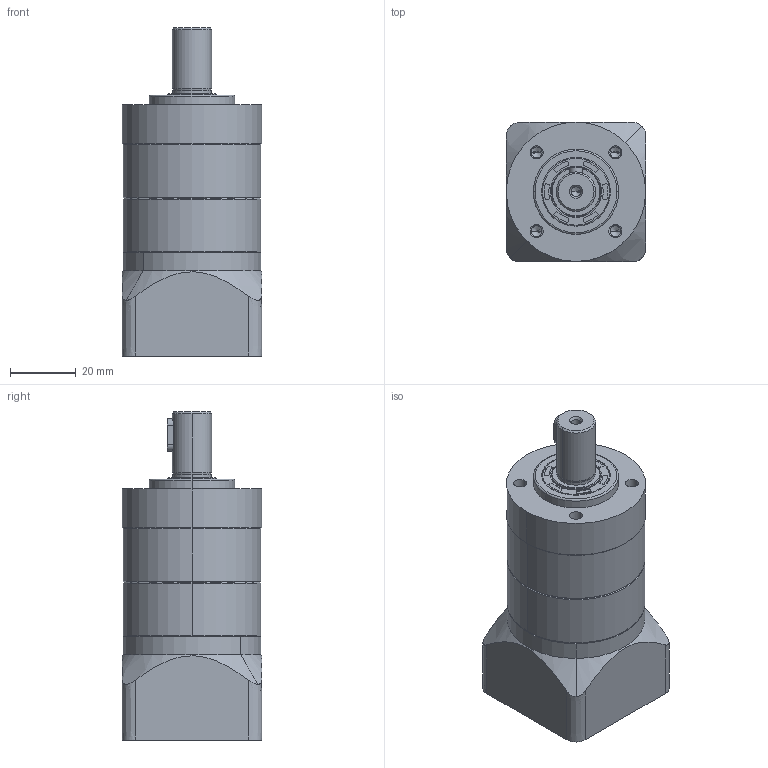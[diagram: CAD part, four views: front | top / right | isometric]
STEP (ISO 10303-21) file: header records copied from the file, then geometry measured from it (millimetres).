
FILE_DESCRIPTION (( 'STEP AP203' ), '1' );
FILE_NAME ('NB42-L2(8-30-45-M3).STEP', '2022-03-12T16:16:15', ( '' ), ( '' ), 'SwSTEP 2.0', 'SolidWorks 2016', '' );
FILE_SCHEMA (( 'CONFIG_CONTROL_DESIGN' ));
Length unit declared in the file: millimetre
Products named in the file (8): NB42-(26x3-34-M4); SN42-(30-45-M3); SN42-(12x20-4x10); NB42-15x21x3; NB42-L2(8-30-45-M3); SN42-26x14x11-M4; SN42-(8); SN42
Assembly tree (8 placements, depth 2):
  NB42-L2(8-30-45-M3)
    NB42-(26x3-34-M4)
    NB42-15x21x3
    SN42-(12x20-4x10)
    SN42  x2
    SN42-(30-45-M3)
    SN42-(8)
    SN42-26x14x11-M4
Bounding box: 42.5 x 42.5 x 100.1 mm (x, y, z)
Volume: 97981.4 mm3; surface area: 37542.6 mm2
Topology: 8 solids, 11 shells, 414 faces, 998 edges, 611 vertices
Faces by surface type: cylinder 202, plane 91, cone 82, bspline 29, torus 10
Entity records: 23633 total; most frequent: CARTESIAN_POINT 13925, ORIENTED_EDGE 1864, DIRECTION 1811, EDGE_CURVE 934, AXIS2_PLACEMENT_3D 719, VERTEX_POINT 587, EDGE_LOOP 456, ADVANCED_FACE 398
